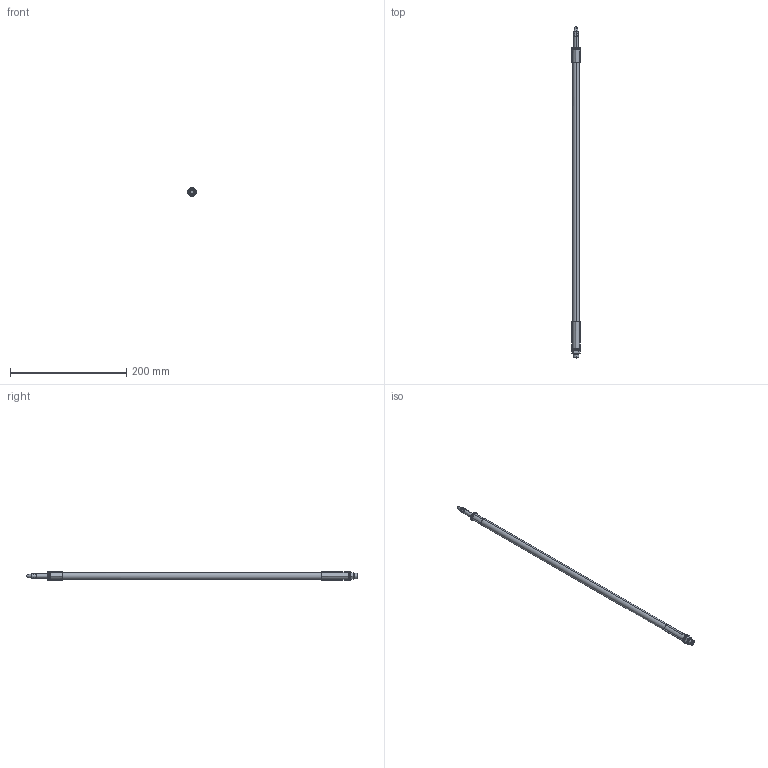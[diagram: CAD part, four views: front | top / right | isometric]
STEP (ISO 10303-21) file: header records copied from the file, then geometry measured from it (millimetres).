
FILE_DESCRIPTION (( 'STEP AP203' ), '1' );
FILE_NAME ('SILVENT_650_STEP.STEP', '2019-11-11T08:25:39', ( '' ), ( '' ), 'SwSTEP 2.0', 'SolidWorks 2016', '' );
FILE_SCHEMA (( 'CONFIG_CONTROL_DESIGN' ));
Length unit declared in the file: millimetre
Products named in the file (5): Silvent 5001; SILVENT_650_STEP; Silvent 650 utan munstycke
Assembly tree (2 placements, depth 2):
  Silvent 5001
  SILVENT_650_STEP
    Silvent 650 utan munstycke
    Silvent 5001
  Silvent 650 utan munstycke
Bounding box: 15 x 571.3 x 15 mm (x, y, z)
Volume: 52128.1 mm3; surface area: 31102.7 mm2
Topology: 2 solids, 2 shells, 133 faces, 318 edges, 179 vertices
Faces by surface type: cylinder 46, plane 33, cone 24, bspline 18, torus 12
Entity records: 4973 total; most frequent: CARTESIAN_POINT 1536, DIRECTION 698, ORIENTED_EDGE 600, AXIS2_PLACEMENT_3D 317, EDGE_CURVE 300, CIRCLE 196, VERTEX_POINT 179, EDGE_LOOP 143
